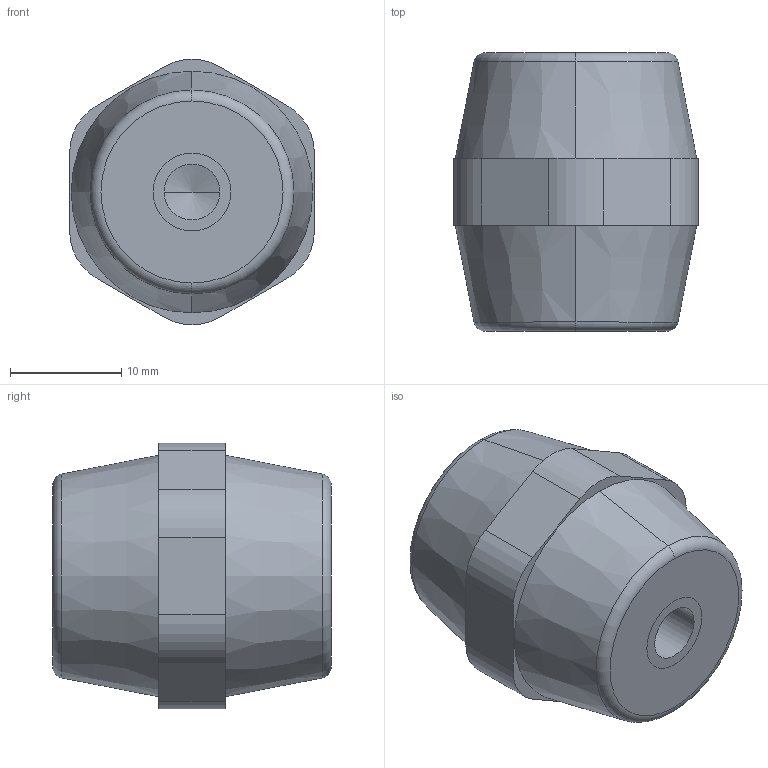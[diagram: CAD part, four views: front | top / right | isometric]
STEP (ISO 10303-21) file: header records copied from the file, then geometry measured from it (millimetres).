
FILE_DESCRIPTION (( 'STEP AP203' ), '1' );
FILE_NAME ('Isolatore 2819 22X25-M5.STEP', '2024-10-28T22:45:27', ( '' ), ( '' ), 'SwSTEP 2.0', 'SolidWorks 2020', '' );
FILE_SCHEMA (( 'CONFIG_CONTROL_DESIGN' ));
Length unit declared in the file: millimetre
Products named in the file (1): Isolatore 2819 22X25-M5
Bounding box: 22 x 25 x 23.86 mm (x, y, z)
Volume: 8091.7 mm3; surface area: 3430.4 mm2
Topology: 3 solids, 3 shells, 75 faces, 167 edges, 100 vertices
Faces by surface type: cylinder 35, plane 20, cone 16, torus 4
Entity records: 2088 total; most frequent: DIRECTION 393, CARTESIAN_POINT 331, ORIENTED_EDGE 310, AXIS2_PLACEMENT_3D 162, EDGE_CURVE 155, VERTEX_POINT 100, EDGE_LOOP 89, CIRCLE 86
